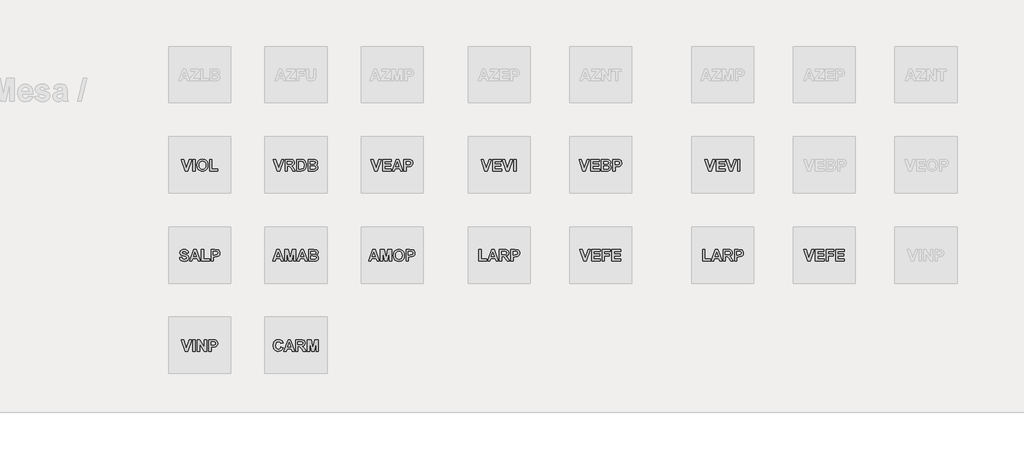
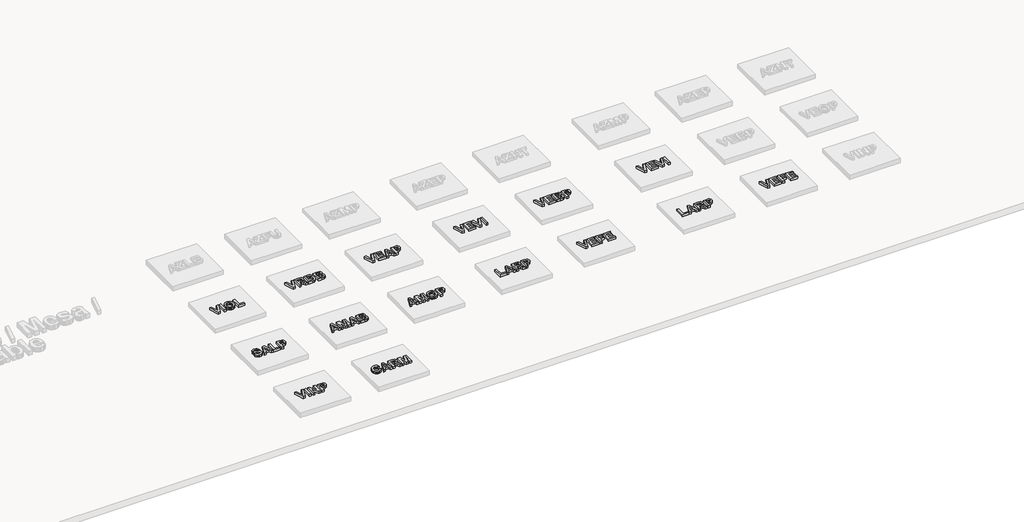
# One storey, part 2 of 11: 15 proxies.
"""IFC4 building model written with IfcOpenShell, lengths in millimetres."""

from ifc_helpers import new_model, si_unit, frame, origin, place, context, project, spatial, polyline, outline, extrude, element, save

model = new_model("IFC4")

# Units and contexts
model_context = context("Model", 3, world=origin())
ifc_project = project(units=[si_unit("LENGTHUNIT", "METRE", prefix="MILLI")], contexts=[model_context])

# Site, building, storey
site = spatial("IfcSite", under=ifc_project)
building = spatial("IfcBuilding", under=site)
storey = spatial("IfcBuildingStorey", under=building, Name="Biblioteca BIM Revit Metadil - Refeitório", Elevation=0.0)

# Proxies
placement = place(None, origin())
element("IfcBuildingElementProxy", 1, Name="Arial 200mm", ObjectType="Arial 200mm", at=placement, inside=storey, context=model_context, shape_type="SweptSolid", body=[
    extrude(outline(polyline([(808.0346861, -1251.3466779), (739.2582712, -1047.2947979), (780.2508364, -1047.2947979), (831.567455, -1199.5239782), (883.0358979, -1047.2947979), (923.8766388, -1047.2947979), (851.4564403, -1251.3466779), (808.0346861, -1251.3466779)])), frame((0.0, 0.0, 100.0), z_axis=(0.0, 0.0, 1.0), x_axis=(1.0, 0.0, 0.0)), (0.0, 0.0, 1.0), 50.0),
    extrude(outline(polyline([(946.5490699, -1251.3466779), (946.5490699, -1047.2947979), (1098.7782502, -1047.2947979), (1098.7782502, -1082.922904), (985.4160947, -1082.922904), (985.4160947, -1128.2677662), (1092.3004127, -1128.2677662), (1092.3004127, -1163.8958722), (985.4160947, -1163.8958722), (985.4160947, -1215.7185719), (1102.0171689, -1215.7185719), (1102.0171689, -1251.3466779), (946.5490699, -1251.3466779)])), frame((0.0, 0.0, 100.0), z_axis=(0.0, 0.0, 1.0), x_axis=(1.0, 0.0, 0.0)), (0.0, 0.0, 1.0), 50.0),
    extrude(outline(polyline([(1134.4063562, -1047.2947979), (1218.1627703, -1047.2947979), (1255.2332073, -1049.3191221), (1277.0959087, -1057.7959797), (1293.1639821, -1074.9521274), (1297.9844041, -1086.307321), (1299.5912115, -1098.9656733), (1297.6744295, -1112.7563819), (1291.9240835, -1125.3831042), (1282.8842108, -1135.9222421), (1271.0988483, -1143.4501977), (1286.0029352, -1150.7630689), (1297.0101981, -1161.871548), (1303.8043362, -1176.0291654), (1306.0690489, -1192.4894516), (1304.4432636, -1206.159966), (1299.5659074, -1219.4382676), (1291.8734754, -1231.2046521), (1281.8024625, -1240.339415), (1269.2326744, -1246.6591022), (1254.0439168, -1249.9802591), (1204.1443251, -1251.3466779), (1134.4063562, -1251.3466779), (1134.4063562, -1047.2947979)]), holes=[polyline([(1173.273381, -1082.922904), (1173.273381, -1128.2677662), (1202.9297306, -1128.2677662), (1235.824999, -1127.6098608), (1254.0692209, -1120.5753342), (1259.0604453, -1113.8318042), (1260.7241867, -1105.2410783), (1259.2881817, -1097.0235873), (1254.9801668, -1090.4888157), (1237.9505394, -1083.5808093), (1199.2859471, -1082.922904), (1173.273381, -1082.922904)]), polyline([(1173.273381, -1163.8958722), (1173.273381, -1215.7185719), (1214.3671624, -1215.7185719), (1244.8332417, -1214.5039774), (1260.9772272, -1206.7862413), (1265.6458249, -1199.5935644), (1267.2020242, -1190.3133031), (1262.3942542, -1175.5357364), (1248.5276334, -1166.679318), (1209.1545276, -1163.8958722), (1173.273381, -1163.8958722)])]), frame((0.0, 0.0, 100.0), z_axis=(0.0, 0.0, 1.0), x_axis=(1.0, 0.0, 0.0)), (0.0, 0.0, 1.0), 50.0),
    extrude(outline(polyline([(1338.4582362, -1251.3466779), (1338.4582362, -1047.2947979), (1404.1981648, -1047.2947979), (1452.9337701, -1050.3312842), (1468.9702134, -1057.5745693), (1482.1599508, -1070.1949655), (1490.9847392, -1087.7243479), (1493.9263353, -1109.6945916), (1492.1993337, -1126.8823693), (1487.0183289, -1141.0969208), (1479.1740726, -1152.4584404), (1469.4573164, -1161.0871224), (1447.8223515, -1170.7279664), (1404.5524216, -1173.6126284), (1377.325261, -1173.6126284), (1377.325261, -1251.3466779), (1338.4582362, -1251.3466779)]), holes=[polyline([(1377.325261, -1082.922904), (1377.325261, -1137.9845224), (1401.4653272, -1137.9845224), (1436.3090076, -1134.9480361), (1450.0744122, -1125.4084082), (1455.0593105, -1110.3018888), (1453.3070049, -1100.6483928), (1448.0500879, -1092.8420926), (1430.3625552, -1084.2387147), (1398.6312733, -1082.922904), (1377.325261, -1082.922904)])]), frame((0.0, 0.0, 100.0), z_axis=(0.0, 0.0, 1.0), x_axis=(1.0, 0.0, 0.0)), (0.0, 0.0, 1.0), 50.0),
])
element("IfcBuildingElementProxy", 2, Name="Arial 200mm", ObjectType="Arial 200mm", at=placement, inside=storey, context=model_context, shape_type="SweptSolid", body=[
    extrude(outline(polyline([(-928.8063987, -1251.3466779), (-997.5828136, -1047.2947979), (-956.5902484, -1047.2947979), (-905.2736298, -1199.5239782), (-853.8051868, -1047.2947979), (-812.964446, -1047.2947979), (-885.3846445, -1251.3466779), (-928.8063987, -1251.3466779)])), frame((0.0, 0.0, 100.0), z_axis=(0.0, 0.0, 1.0), x_axis=(1.0, 0.0, 0.0)), (0.0, 0.0, 1.0), 50.0),
    extrude(outline(polyline([(-790.2920149, -1251.3466779), (-790.2920149, -1047.2947979), (-638.0628346, -1047.2947979), (-638.0628346, -1082.922904), (-751.4249901, -1082.922904), (-751.4249901, -1128.2677662), (-644.540672, -1128.2677662), (-644.540672, -1163.8958722), (-751.4249901, -1163.8958722), (-751.4249901, -1215.7185719), (-634.8239158, -1215.7185719), (-634.8239158, -1251.3466779), (-790.2920149, -1251.3466779)])), frame((0.0, 0.0, 100.0), z_axis=(0.0, 0.0, 1.0), x_axis=(1.0, 0.0, 0.0)), (0.0, 0.0, 1.0), 50.0),
    extrude(outline(polyline([(-553.091826, -1251.3466779), (-621.8682409, -1047.2947979), (-580.8756757, -1047.2947979), (-529.5590571, -1199.5239782), (-478.0906142, -1047.2947979), (-437.2498733, -1047.2947979), (-509.6700718, -1251.3466779), (-553.091826, -1251.3466779)])), frame((0.0, 0.0, 100.0), z_axis=(0.0, 0.0, 1.0), x_axis=(1.0, 0.0, 0.0)), (0.0, 0.0, 1.0), 50.0),
    extrude(outline(polyline([(-414.5774422, -1251.3466779), (-414.5774422, -1047.2947979), (-375.7104174, -1047.2947979), (-375.7104174, -1251.3466779), (-414.5774422, -1251.3466779)])), frame((0.0, 0.0, 100.0), z_axis=(0.0, 0.0, 1.0), x_axis=(1.0, 0.0, 0.0)), (0.0, 0.0, 1.0), 50.0),
])
element("IfcBuildingElementProxy", 3, Name="Arial 200mm", ObjectType="Arial 200mm", at=placement, inside=storey, context=model_context, shape_type="SweptSolid", body=[
    extrude(outline(polyline([(-4497.176333, -2851.3466779), (-4538.0170738, -2851.3466779), (-4554.009235, -2806.0018157), (-4631.0853792, -2806.0018157), (-4646.875108, -2851.3466779), (-4688.272538, -2851.3466779), (-4613.7774072, -2647.2947979), (-4572.3799772, -2647.2947979), (-4497.176333, -2851.3466779)]), holes=[polyline([(-4566.4588289, -2770.3737097), (-4592.7244355, -2695.8785789), (-4618.6357853, -2770.3737097), (-4566.4588289, -2770.3737097)])]), frame((0.0, 0.0, 100.0), z_axis=(0.0, 0.0, 1.0), x_axis=(1.0, 0.0, 0.0)), (0.0, 0.0, 1.0), 50.0),
    extrude(outline(polyline([(-4477.7428206, -2851.3466779), (-4477.7428206, -2647.2947979), (-4411.1425542, -2647.2947979), (-4378.9557993, -2786.4670871), (-4346.7690444, -2647.2947979), (-4280.168778, -2647.2947979), (-4280.168778, -2851.3466779), (-4319.0358028, -2851.3466779), (-4320.6552622, -2690.7165522), (-4356.182152, -2851.3466779), (-4401.6788385, -2851.3466779), (-4437.2563365, -2690.7165522), (-4438.8757958, -2851.3466779), (-4477.7428206, -2851.3466779)])), frame((0.0, 0.0, 100.0), z_axis=(0.0, 0.0, 1.0), x_axis=(1.0, 0.0, 0.0)), (0.0, 0.0, 1.0), 50.0),
    extrude(outline(polyline([(-4069.6390606, -2851.3466779), (-4110.4798015, -2851.3466779), (-4126.4719627, -2806.0018157), (-4203.5481068, -2806.0018157), (-4219.3378356, -2851.3466779), (-4260.7352657, -2851.3466779), (-4186.2401349, -2647.2947979), (-4144.8427049, -2647.2947979), (-4069.6390606, -2851.3466779)]), holes=[polyline([(-4138.9215566, -2770.3737097), (-4165.1871631, -2695.8785789), (-4191.098513, -2770.3737097), (-4138.9215566, -2770.3737097)])]), frame((0.0, 0.0, 100.0), z_axis=(0.0, 0.0, 1.0), x_axis=(1.0, 0.0, 0.0)), (0.0, 0.0, 1.0), 50.0),
    extrude(outline(polyline([(-4050.2055482, -2647.2947979), (-3966.4491342, -2647.2947979), (-3929.3786972, -2649.3191221), (-3907.5159957, -2657.7959797), (-3891.4479223, -2674.9521274), (-3886.6275003, -2686.307321), (-3885.020693, -2698.9656733), (-3886.937475, -2712.7563819), (-3892.6878209, -2725.3831042), (-3901.7276937, -2735.9222421), (-3913.5130562, -2743.4501977), (-3898.6089692, -2750.7630689), (-3887.6017063, -2761.871548), (-3880.8075682, -2776.0291654), (-3878.5428555, -2792.4894516), (-3880.1686409, -2806.159966), (-3885.045997, -2819.4382676), (-3892.738429, -2831.2046521), (-3902.8094419, -2840.339415), (-3915.3792301, -2846.6591022), (-3930.5679876, -2849.9802591), (-3980.4675793, -2851.3466779), (-4050.2055482, -2851.3466779), (-4050.2055482, -2647.2947979)]), holes=[polyline([(-4011.3385235, -2763.8958722), (-4011.3385235, -2815.7185719), (-3970.2447421, -2815.7185719), (-3939.7786628, -2814.5039774), (-3923.6346772, -2806.7862413), (-3918.9660795, -2799.5935644), (-3917.4098803, -2790.3133031), (-3922.2176503, -2775.5357364), (-3936.0842711, -2766.679318), (-3975.4573769, -2763.8958722), (-4011.3385235, -2763.8958722)]), polyline([(-4011.3385235, -2682.922904), (-4011.3385235, -2728.2677662), (-3981.6821738, -2728.2677662), (-3948.7869055, -2727.6098608), (-3930.5426836, -2720.5753342), (-3925.5514592, -2713.8318042), (-3923.8877177, -2705.2410783), (-3925.3237227, -2697.0235873), (-3929.6317377, -2690.4888157), (-3946.6613651, -2683.5808093), (-3985.3259574, -2682.922904), (-4011.3385235, -2682.922904)])]), frame((0.0, 0.0, 100.0), z_axis=(0.0, 0.0, 1.0), x_axis=(1.0, 0.0, 0.0)), (0.0, 0.0, 1.0), 50.0),
])
element("IfcBuildingElementProxy", 4, Name="Arial 200mm", ObjectType="Arial 200mm", at=placement, inside=storey, context=model_context, shape_type="SweptSolid", body=[
    extrude(outline(polyline([(824.2292797, -2851.3466779), (755.4528648, -2647.2947979), (796.44543, -2647.2947979), (847.7620486, -2799.5239782), (899.2304916, -2647.2947979), (940.0712324, -2647.2947979), (867.651034, -2851.3466779), (824.2292797, -2851.3466779)])), frame((0.0, 0.0, 100.0), z_axis=(0.0, 0.0, 1.0), x_axis=(1.0, 0.0, 0.0)), (0.0, 0.0, 1.0), 50.0),
    extrude(outline(polyline([(962.7436635, -2851.3466779), (962.7436635, -2647.2947979), (1114.9728439, -2647.2947979), (1114.9728439, -2682.922904), (1001.6106883, -2682.922904), (1001.6106883, -2728.2677662), (1108.4950064, -2728.2677662), (1108.4950064, -2763.8958722), (1001.6106883, -2763.8958722), (1001.6106883, -2815.7185719), (1118.2117626, -2815.7185719), (1118.2117626, -2851.3466779), (962.7436635, -2851.3466779)])), frame((0.0, 0.0, 100.0), z_axis=(0.0, 0.0, 1.0), x_axis=(1.0, 0.0, 0.0)), (0.0, 0.0, 1.0), 50.0),
    extrude(outline(polyline([(1150.6009499, -2851.3466779), (1150.6009499, -2647.2947979), (1289.8744553, -2647.2947979), (1289.8744553, -2682.922904), (1189.4679746, -2682.922904), (1189.4679746, -2728.2677662), (1276.9187804, -2728.2677662), (1276.9187804, -2763.8958722), (1189.4679746, -2763.8958722), (1189.4679746, -2851.3466779), (1150.6009499, -2851.3466779)])), frame((0.0, 0.0, 100.0), z_axis=(0.0, 0.0, 1.0), x_axis=(1.0, 0.0, 0.0)), (0.0, 0.0, 1.0), 50.0),
    extrude(outline(polyline([(1322.2636426, -2851.3466779), (1322.2636426, -2647.2947979), (1474.4928229, -2647.2947979), (1474.4928229, -2682.922904), (1361.1306673, -2682.922904), (1361.1306673, -2728.2677662), (1468.0149854, -2728.2677662), (1468.0149854, -2763.8958722), (1361.1306673, -2763.8958722), (1361.1306673, -2815.7185719), (1477.7317416, -2815.7185719), (1477.7317416, -2851.3466779), (1322.2636426, -2851.3466779)])), frame((0.0, 0.0, 100.0), z_axis=(0.0, 0.0, 1.0), x_axis=(1.0, 0.0, 0.0)), (0.0, 0.0, 1.0), 50.0),
])
element("IfcBuildingElementProxy", 5, Name="Arial 200mm", ObjectType="Arial 200mm", at=placement, inside=storey, context=model_context, shape_type="SweptSolid", body=[
    extrude(outline(polyline([(-1034.830379, -2851.3466779), (-1034.830379, -2647.2947979), (-995.9633542, -2647.2947979), (-995.9633542, -2815.7185719), (-892.3179549, -2815.7185719), (-892.3179549, -2851.3466779), (-1034.830379, -2851.3466779)])), frame((0.0, 0.0, 100.0), z_axis=(0.0, 0.0, 1.0), x_axis=(1.0, 0.0, 0.0)), (0.0, 0.0, 1.0), 50.0),
    extrude(outline(polyline([(-691.5049936, -2851.3466779), (-732.3457345, -2851.3466779), (-748.3378957, -2806.0018157), (-825.4140398, -2806.0018157), (-841.2037687, -2851.3466779), (-882.6011987, -2851.3466779), (-808.1060679, -2647.2947979), (-766.7086379, -2647.2947979), (-691.5049936, -2851.3466779)]), holes=[polyline([(-760.7874896, -2770.3737097), (-787.0530961, -2695.8785789), (-812.964446, -2770.3737097), (-760.7874896, -2770.3737097)])]), frame((0.0, 0.0, 100.0), z_axis=(0.0, 0.0, 1.0), x_axis=(1.0, 0.0, 0.0)), (0.0, 0.0, 1.0), 50.0),
    extrude(outline(polyline([(-672.0714812, -2851.3466779), (-672.0714812, -2647.2947979), (-586.2401349, -2647.2947979), (-558.2791568, -2648.6738688), (-539.1745971, -2652.8110814), (-525.9658816, -2660.4782093), (-515.6924363, -2672.4470262), (-509.0880786, -2687.5915017), (-506.886626, -2704.7856054), (-510.0686106, -2725.8512292), (-519.6145644, -2742.8935086), (-535.4991834, -2755.14067), (-557.6971636, -2761.8209399), (-537.3020972, -2778.8252632), (-515.6418282, -2811.7711397), (-490.6920323, -2851.3466779), (-536.0875027, -2851.3466779), (-565.6426361, -2804.7366131), (-588.8464523, -2777.0792836), (-602.1057758, -2769.2603314), (-624.29743, -2767.1347909), (-633.2044565, -2767.1347909), (-633.2044565, -2851.3466779), (-672.0714812, -2851.3466779)]), holes=[polyline([(-633.2044565, -2731.5066849), (-601.1695259, -2731.5066849), (-562.2771971, -2729.153408), (-550.1312518, -2721.0561112), (-545.7536507, -2706.7087134), (-547.1959817, -2697.9724892), (-551.5229747, -2691.0961129), (-567.8187846, -2683.5808093), (-599.3982422, -2682.922904), (-633.2044565, -2682.922904), (-633.2044565, -2731.5066849)])]), frame((0.0, 0.0, 100.0), z_axis=(0.0, 0.0, 1.0), x_axis=(1.0, 0.0, 0.0)), (0.0, 0.0, 1.0), 50.0),
    extrude(outline(polyline([(-468.0196012, -2851.3466779), (-468.0196012, -2647.2947979), (-402.2796726, -2647.2947979), (-353.5440674, -2650.3312842), (-337.507624, -2657.5745693), (-324.3178866, -2670.1949655), (-315.4930983, -2687.7243479), (-312.5515022, -2709.6945916), (-314.2785038, -2726.8823693), (-319.4595085, -2741.0969208), (-327.3037648, -2752.4584404), (-337.020521, -2761.0871224), (-358.655486, -2770.7279664), (-401.9254159, -2773.6126284), (-429.1525765, -2773.6126284), (-429.1525765, -2851.3466779), (-468.0196012, -2851.3466779)]), holes=[polyline([(-429.1525765, -2682.922904), (-429.1525765, -2737.9845224), (-405.0125103, -2737.9845224), (-370.1688299, -2734.9480361), (-356.4034253, -2725.4084082), (-351.4185269, -2710.3018888), (-353.1708326, -2700.6483928), (-358.4277495, -2692.8420926), (-376.1152823, -2684.2387147), (-407.8465642, -2682.922904), (-429.1525765, -2682.922904)])]), frame((0.0, 0.0, 100.0), z_axis=(0.0, 0.0, 1.0), x_axis=(1.0, 0.0, 0.0)), (0.0, 0.0, 1.0), 50.0),
])
element("IfcBuildingElementProxy", 6, Name="Arial 200mm", ObjectType="Arial 200mm", at=placement, inside=storey, context=model_context, shape_type="SweptSolid", body=[
    extrude(outline(polyline([(-2799.7582611, -2851.3466779), (-2840.599002, -2851.3466779), (-2856.5911632, -2806.0018157), (-2933.6673073, -2806.0018157), (-2949.4570362, -2851.3466779), (-2990.8544662, -2851.3466779), (-2916.3593354, -2647.2947979), (-2874.9619054, -2647.2947979), (-2799.7582611, -2851.3466779)]), holes=[polyline([(-2869.0407571, -2770.3737097), (-2895.3063636, -2695.8785789), (-2921.2177135, -2770.3737097), (-2869.0407571, -2770.3737097)])]), frame((0.0, 0.0, 100.0), z_axis=(0.0, 0.0, 1.0), x_axis=(1.0, 0.0, 0.0)), (0.0, 0.0, 1.0), 50.0),
    extrude(outline(polyline([(-2780.3247487, -2851.3466779), (-2780.3247487, -2647.2947979), (-2713.7244823, -2647.2947979), (-2681.5377275, -2786.4670871), (-2649.3509726, -2647.2947979), (-2582.7507062, -2647.2947979), (-2582.7507062, -2851.3466779), (-2621.617731, -2851.3466779), (-2623.2371903, -2690.7165522), (-2658.7640801, -2851.3466779), (-2704.2607667, -2851.3466779), (-2739.8382646, -2690.7165522), (-2741.457724, -2851.3466779), (-2780.3247487, -2851.3466779)])), frame((0.0, 0.0, 100.0), z_axis=(0.0, 0.0, 1.0), x_axis=(1.0, 0.0, 0.0)), (0.0, 0.0, 1.0), 50.0),
    extrude(outline(polyline([(-2550.3615189, -2750.5859406), (-2548.0715021, -2721.9670571), (-2541.2014519, -2698.358376), (-2522.5523651, -2670.448006), (-2510.1723574, -2659.6748057), (-2496.6663193, -2652.1025679), (-2476.4989894, -2646.0675514), (-2453.4469975, -2644.0558792), (-2432.4130038, -2645.8002773), (-2413.5931147, -2651.0334717), (-2396.9873302, -2659.7554623), (-2382.5956503, -2671.9662492), (-2370.9716011, -2687.2831085), (-2362.6687089, -2705.3233165), (-2357.6869735, -2726.0868731), (-2356.0263951, -2749.5737784), (-2357.6743215, -2772.9009519), (-2362.6181008, -2793.5395698), (-2370.8577329, -2811.4896321), (-2382.3932179, -2826.7511388), (-2396.6900076, -2838.9287141), (-2413.2135539, -2847.6269822), (-2431.9638569, -2852.845943), (-2452.9409165, -2854.5855966), (-2474.1393865, -2852.8538505), (-2493.0478398, -2847.6586123), (-2509.6662763, -2838.9998818), (-2523.9946961, -2826.8776591), (-2535.5301811, -2811.7189501), (-2543.7698132, -2793.9507607), (-2548.7135925, -2773.5730908), (-2550.3615189, -2750.5859406)]), holes=[polyline([(-2511.4944941, -2749.1689136), (-2507.3636075, -2779.3693004), (-2494.9709478, -2801.2446538), (-2476.2143188, -2814.5292814), (-2452.9915246, -2818.9574906), (-2429.8193384, -2814.5609115), (-2411.2145338, -2801.3711741), (-2398.9736983, -2779.3882784), (-2394.8934199, -2748.6122245), (-2398.8661561, -2718.2979695), (-2410.7843649, -2696.7895248), (-2429.2816273, -2683.9603701), (-2452.9915246, -2679.6839852), (-2476.7520299, -2684.0109782), (-2495.4011167, -2696.9919572), (-2507.4711498, -2718.6901823), (-2511.4944941, -2749.1689136)])]), frame((0.0, 0.0, 100.0), z_axis=(0.0, 0.0, 1.0), x_axis=(1.0, 0.0, 0.0)), (0.0, 0.0, 1.0), 50.0),
    extrude(outline(polyline([(-2323.6372078, -2851.3466779), (-2323.6372078, -2647.2947979), (-2257.8972792, -2647.2947979), (-2209.1616739, -2650.3312842), (-2193.1252306, -2657.5745693), (-2179.9354932, -2670.1949655), (-2171.1107049, -2687.7243479), (-2168.1691087, -2709.6945916), (-2169.8961103, -2726.8823693), (-2175.0771151, -2741.0969208), (-2182.9213714, -2752.4584404), (-2192.6381276, -2761.0871224), (-2214.2730925, -2770.7279664), (-2257.5430225, -2773.6126284), (-2284.770183, -2773.6126284), (-2284.770183, -2851.3466779), (-2323.6372078, -2851.3466779)]), holes=[polyline([(-2284.770183, -2682.922904), (-2284.770183, -2737.9845224), (-2260.6301169, -2737.9845224), (-2225.7864365, -2734.9480361), (-2212.0210319, -2725.4084082), (-2207.0361335, -2710.3018888), (-2208.7884391, -2700.6483928), (-2214.0453561, -2692.8420926), (-2231.7328888, -2684.2387147), (-2263.4641708, -2682.922904), (-2284.770183, -2682.922904)])]), frame((0.0, 0.0, 100.0), z_axis=(0.0, 0.0, 1.0), x_axis=(1.0, 0.0, 0.0)), (0.0, 0.0, 1.0), 50.0),
])
element("IfcBuildingElementProxy", 7, Name="Arial 200mm", ObjectType="Arial 200mm", at=placement, inside=storey, context=model_context, shape_type="SweptSolid", body=[
    extrude(outline(polyline([(-6240.7996048, -1251.3466779), (-6309.5760197, -1047.2947979), (-6268.5834546, -1047.2947979), (-6217.2668359, -1199.5239782), (-6165.798393, -1047.2947979), (-6124.9576521, -1047.2947979), (-6197.3778506, -1251.3466779), (-6240.7996048, -1251.3466779)])), frame((0.0, 0.0, 100.0), z_axis=(0.0, 0.0, 1.0), x_axis=(1.0, 0.0, 0.0)), (0.0, 0.0, 1.0), 50.0),
    extrude(outline(polyline([(-6102.285221, -1251.3466779), (-6102.285221, -1047.2947979), (-6063.4181962, -1047.2947979), (-6063.4181962, -1251.3466779), (-6102.285221, -1251.3466779)])), frame((0.0, 0.0, 100.0), z_axis=(0.0, 0.0, 1.0), x_axis=(1.0, 0.0, 0.0)), (0.0, 0.0, 1.0), 50.0),
    extrude(outline(polyline([(-6031.0290089, -1150.5859406), (-6028.7389922, -1121.9670571), (-6021.8689419, -1098.358376), (-6003.2198552, -1070.448006), (-5990.8398474, -1059.6748057), (-5977.3338094, -1052.1025679), (-5957.1664795, -1046.0675514), (-5934.1144876, -1044.0558792), (-5913.0804939, -1045.8002773), (-5894.2606048, -1051.0334717), (-5877.6548203, -1059.7554623), (-5863.2631404, -1071.9662492), (-5851.6390912, -1087.2831085), (-5843.3361989, -1105.3233165), (-5838.3544636, -1126.0868731), (-5836.6938851, -1149.5737784), (-5838.3418116, -1172.9009519), (-5843.2855908, -1193.5395698), (-5851.525223, -1211.4896321), (-5863.0607079, -1226.7511388), (-5877.3574976, -1238.9287141), (-5893.881044, -1247.6269822), (-5912.6313469, -1252.845943), (-5933.6084065, -1254.5855966), (-5954.8068766, -1252.8538505), (-5973.7153299, -1247.6586123), (-5990.3337664, -1238.9998818), (-6004.6621862, -1226.8776591), (-6016.1976711, -1211.7189501), (-6024.4373032, -1193.9507607), (-6029.3810825, -1173.5730908), (-6031.0290089, -1150.5859406)]), holes=[polyline([(-5992.1619842, -1149.1689136), (-5988.0310976, -1179.3693004), (-5975.6384379, -1201.2446538), (-5956.8818089, -1214.5292814), (-5933.6590146, -1218.9574906), (-5910.4868285, -1214.5609115), (-5891.8820238, -1201.3711741), (-5879.6411884, -1179.3882784), (-5875.5609099, -1148.6122245), (-5879.5336462, -1118.2979695), (-5891.4518549, -1096.7895248), (-5909.9491174, -1083.9603701), (-5933.6590146, -1079.6839852), (-5957.41952, -1084.0109782), (-5976.0686067, -1096.9919572), (-5988.1386398, -1118.6901823), (-5992.1619842, -1149.1689136)])]), frame((0.0, 0.0, 100.0), z_axis=(0.0, 0.0, 1.0), x_axis=(1.0, 0.0, 0.0)), (0.0, 0.0, 1.0), 50.0),
    extrude(outline(polyline([(-5804.3046978, -1251.3466779), (-5804.3046978, -1047.2947979), (-5765.4376731, -1047.2947979), (-5765.4376731, -1215.7185719), (-5661.7922737, -1215.7185719), (-5661.7922737, -1251.3466779), (-5804.3046978, -1251.3466779)])), frame((0.0, 0.0, 100.0), z_axis=(0.0, 0.0, 1.0), x_axis=(1.0, 0.0, 0.0)), (0.0, 0.0, 1.0), 50.0),
])
element("IfcBuildingElementProxy", 8, Name="Arial 200mm", ObjectType="Arial 200mm", at=placement, inside=storey, context=model_context, shape_type="SweptSolid", body=[
    extrude(outline(polyline([(-6340.3457477, -2783.3293846), (-6301.4787229, -2780.0904659), (-6295.8106151, -2797.47435), (-6286.2962914, -2809.5443831), (-6272.8724915, -2816.6042137), (-6255.4759553, -2818.9574906), (-6237.4215138, -2816.8762323), (-6224.4531869, -2810.6324573), (-6216.6342346, -2801.6052366), (-6214.0279172, -2791.1736409), (-6218.3549102, -2779.0023916), (-6233.5120377, -2770.2724935), (-6267.2170357, -2761.6185075), (-6295.9877435, -2752.6735249), (-6314.6874383, -2741.7295221), (-6329.0727922, -2723.0930874), (-6333.8679102, -2700.7875651), (-6331.6664576, -2685.7569578), (-6325.0620999, -2671.7385127), (-6314.3078776, -2659.832956), (-6299.6568311, -2651.1410139), (-6281.3493491, -2645.8271629), (-6259.6258199, -2644.0558792), (-6226.0536682, -2648.4714364), (-6201.9578841, -2661.7181079), (-6187.1992954, -2682.3282587), (-6181.6387299, -2708.8342538), (-6220.5057547, -2708.8342538), (-6224.8011176, -2695.48004), (-6232.221531, -2686.4907754), (-6243.4502043, -2681.3856828), (-6259.170347, -2679.6839852), (-6275.7191974, -2681.493225), (-6288.2193994, -2686.9209443), (-6293.3055139, -2692.3613156), (-6295.0008854, -2699.3705381), (-6293.4573382, -2705.9875479), (-6288.8266966, -2711.5670915), (-6275.3839187, -2718.1018631), (-6250.7440975, -2724.8517191), (-6206.0318366, -2739.2244209), (-6193.1267698, -2748.1251214), (-6183.3594055, -2759.7966157), (-6177.2105207, -2774.384402), (-6175.1608924, -2792.0339787), (-6177.5837555, -2808.8864777), (-6184.8523446, -2824.6255984), (-6196.5554689, -2837.8596179), (-6212.2819376, -2847.1968133), (-6232.202553, -2852.7384008), (-6256.4881174, -2854.5855966), (-6290.5726762, -2850.0371932), (-6315.6996005, -2836.3919828), (-6332.1851907, -2814.0295264), (-6340.3457477, -2783.3293846)])), frame((0.0, 0.0, 100.0), z_axis=(0.0, 0.0, 1.0), x_axis=(1.0, 0.0, 0.0)), (0.0, 0.0, 1.0), 50.0),
    extrude(outline(polyline([(-5971.1090124, -2851.3466779), (-6011.9497533, -2851.3466779), (-6027.9419145, -2806.0018157), (-6105.0180587, -2806.0018157), (-6120.8077875, -2851.3466779), (-6162.2052175, -2851.3466779), (-6087.7100867, -2647.2947979), (-6046.3126567, -2647.2947979), (-5971.1090124, -2851.3466779)]), holes=[polyline([(-6040.3915084, -2770.3737097), (-6066.657115, -2695.8785789), (-6092.5684648, -2770.3737097), (-6040.3915084, -2770.3737097)])]), frame((0.0, 0.0, 100.0), z_axis=(0.0, 0.0, 1.0), x_axis=(1.0, 0.0, 0.0)), (0.0, 0.0, 1.0), 50.0),
    extrude(outline(polyline([(-5951.6755001, -2851.3466779), (-5951.6755001, -2647.2947979), (-5912.8084753, -2647.2947979), (-5912.8084753, -2815.7185719), (-5809.1630759, -2815.7185719), (-5809.1630759, -2851.3466779), (-5951.6755001, -2851.3466779)])), frame((0.0, 0.0, 100.0), z_axis=(0.0, 0.0, 1.0), x_axis=(1.0, 0.0, 0.0)), (0.0, 0.0, 1.0), 50.0),
    extrude(outline(polyline([(-5780.0128074, -2851.3466779), (-5780.0128074, -2647.2947979), (-5714.2728788, -2647.2947979), (-5665.5372735, -2650.3312842), (-5649.5008302, -2657.5745693), (-5636.3110928, -2670.1949655), (-5627.4863044, -2687.7243479), (-5624.5447083, -2709.6945916), (-5626.2717099, -2726.8823693), (-5631.4527147, -2741.0969208), (-5639.296971, -2752.4584404), (-5649.0137272, -2761.0871224), (-5670.6486921, -2770.7279664), (-5713.918622, -2773.6126284), (-5741.1457826, -2773.6126284), (-5741.1457826, -2851.3466779), (-5780.0128074, -2851.3466779)]), holes=[polyline([(-5741.1457826, -2682.922904), (-5741.1457826, -2737.9845224), (-5717.0057164, -2737.9845224), (-5682.162036, -2734.9480361), (-5668.3966314, -2725.4084082), (-5663.4117331, -2710.3018888), (-5665.1640387, -2700.6483928), (-5670.4209557, -2692.8420926), (-5688.1084884, -2684.2387147), (-5719.8397703, -2682.922904), (-5741.1457826, -2682.922904)])]), frame((0.0, 0.0, 100.0), z_axis=(0.0, 0.0, 1.0), x_axis=(1.0, 0.0, 0.0)), (0.0, 0.0, 1.0), 50.0),
])
element("IfcBuildingElementProxy", 9, Name="Arial 200mm", ObjectType="Arial 200mm", at=placement, inside=storey, context=model_context, shape_type="SweptSolid", body=[
    extrude(outline(polyline([(-2881.5915671, -1251.3466779), (-2950.367982, -1047.2947979), (-2909.3754169, -1047.2947979), (-2858.0587982, -1199.5239782), (-2806.5903553, -1047.2947979), (-2765.7496144, -1047.2947979), (-2838.1698129, -1251.3466779), (-2881.5915671, -1251.3466779)])), frame((0.0, 0.0, 100.0), z_axis=(0.0, 0.0, 1.0), x_axis=(1.0, 0.0, 0.0)), (0.0, 0.0, 1.0), 50.0),
    extrude(outline(polyline([(-2743.0771833, -1251.3466779), (-2743.0771833, -1047.2947979), (-2590.848003, -1047.2947979), (-2590.848003, -1082.922904), (-2704.2101586, -1082.922904), (-2704.2101586, -1128.2677662), (-2597.3258405, -1128.2677662), (-2597.3258405, -1163.8958722), (-2704.2101586, -1163.8958722), (-2704.2101586, -1215.7185719), (-2587.6090843, -1215.7185719), (-2587.6090843, -1251.3466779), (-2743.0771833, -1251.3466779)])), frame((0.0, 0.0, 100.0), z_axis=(0.0, 0.0, 1.0), x_axis=(1.0, 0.0, 0.0)), (0.0, 0.0, 1.0), 50.0),
    extrude(outline(polyline([(-2383.5572043, -1251.3466779), (-2424.3979452, -1251.3466779), (-2440.3901064, -1206.0018157), (-2517.4662505, -1206.0018157), (-2533.2559793, -1251.3466779), (-2574.6534094, -1251.3466779), (-2500.1582786, -1047.2947979), (-2458.7608486, -1047.2947979), (-2383.5572043, -1251.3466779)]), holes=[polyline([(-2452.8397003, -1170.3737097), (-2479.1053068, -1095.8785789), (-2505.0166567, -1170.3737097), (-2452.8397003, -1170.3737097)])]), frame((0.0, 0.0, 100.0), z_axis=(0.0, 0.0, 1.0), x_axis=(1.0, 0.0, 0.0)), (0.0, 0.0, 1.0), 50.0),
    extrude(outline(polyline([(-2364.1236919, -1251.3466779), (-2364.1236919, -1047.2947979), (-2298.3837633, -1047.2947979), (-2249.6481581, -1050.3312842), (-2233.6117147, -1057.5745693), (-2220.4219773, -1070.1949655), (-2211.597189, -1087.7243479), (-2208.6555929, -1109.6945916), (-2210.3825945, -1126.8823693), (-2215.5635992, -1141.0969208), (-2223.4078555, -1152.4584404), (-2233.1246117, -1161.0871224), (-2254.7595767, -1170.7279664), (-2298.0295066, -1173.6126284), (-2325.2566672, -1173.6126284), (-2325.2566672, -1251.3466779), (-2364.1236919, -1251.3466779)]), holes=[polyline([(-2325.2566672, -1082.922904), (-2325.2566672, -1137.9845224), (-2301.116601, -1137.9845224), (-2266.2729206, -1134.9480361), (-2252.507516, -1125.4084082), (-2247.5226176, -1110.3018888), (-2249.2749233, -1100.6483928), (-2254.5318402, -1092.8420926), (-2272.219373, -1084.2387147), (-2303.9506549, -1082.922904), (-2325.2566672, -1082.922904)])]), frame((0.0, 0.0, 100.0), z_axis=(0.0, 0.0, 1.0), x_axis=(1.0, 0.0, 0.0)), (0.0, 0.0, 1.0), 50.0),
])
element("IfcBuildingElementProxy", 10, Name="Arial 200mm", ObjectType="Arial 200mm", at=placement, inside=storey, context=model_context, shape_type="SweptSolid", body=[
    extrude(outline(polyline([(-4608.1599076, -1251.3466779), (-4676.9363225, -1047.2947979), (-4635.9437573, -1047.2947979), (-4584.6271387, -1199.5239782), (-4533.1586957, -1047.2947979), (-4492.3179549, -1047.2947979), (-4564.7381533, -1251.3466779), (-4608.1599076, -1251.3466779)])), frame((0.0, 0.0, 100.0), z_axis=(0.0, 0.0, 1.0), x_axis=(1.0, 0.0, 0.0)), (0.0, 0.0, 1.0), 50.0),
    extrude(outline(polyline([(-4469.6455238, -1251.3466779), (-4469.6455238, -1047.2947979), (-4383.8141774, -1047.2947979), (-4355.8531993, -1048.6738688), (-4336.7486396, -1052.8110814), (-4323.5399242, -1060.4782093), (-4313.2664788, -1072.4470262), (-4306.6621211, -1087.5915017), (-4304.4606685, -1104.7856054), (-4307.6426531, -1125.8512292), (-4317.188607, -1142.8935086), (-4333.073226, -1155.14067), (-4355.2712061, -1161.8209399), (-4334.8761397, -1178.8252632), (-4313.2158707, -1211.7711397), (-4288.2660749, -1251.3466779), (-4333.6615452, -1251.3466779), (-4363.2166786, -1204.7366131), (-4386.4204948, -1177.0792836), (-4399.6798184, -1169.2603314), (-4421.8714725, -1167.1347909), (-4430.778499, -1167.1347909), (-4430.778499, -1251.3466779), (-4469.6455238, -1251.3466779)]), holes=[polyline([(-4430.778499, -1131.5066849), (-4398.7435684, -1131.5066849), (-4359.8512396, -1129.153408), (-4347.7052944, -1121.0561112), (-4343.3276933, -1106.7087134), (-4344.7700243, -1097.9724892), (-4349.0970173, -1091.0961129), (-4365.3928271, -1083.5808093), (-4396.9722847, -1082.922904), (-4430.778499, -1082.922904), (-4430.778499, -1131.5066849)])]), frame((0.0, 0.0, 100.0), z_axis=(0.0, 0.0, 1.0), x_axis=(1.0, 0.0, 0.0)), (0.0, 0.0, 1.0), 50.0),
    extrude(outline(polyline([(-4265.5936438, -1047.2947979), (-4190.0357428, -1047.2947979), (-4151.0675018, -1051.191622), (-4134.341523, -1058.5487753), (-4120.1965576, -1069.9925331), (-4108.8793201, -1084.9978363), (-4100.636525, -1103.0396258), (-4095.6073446, -1124.8833491), (-4093.9309511, -1151.294454), (-4095.4998023, -1174.7260067), (-4100.2063561, -1194.7162082), (-4109.5435515, -1214.8582341), (-4122.1702737, -1230.7491791), (-4134.796996, -1240.0357664), (-4151.2193261, -1247.044989), (-4187.8089861, -1251.3466779), (-4265.5936438, -1251.3466779), (-4265.5936438, -1047.2947979)]), holes=[polyline([(-4226.726619, -1082.922904), (-4226.726619, -1215.7185719), (-4193.6289182, -1215.7185719), (-4166.8066225, -1213.7954639), (-4148.9166573, -1205.4704306), (-4137.3020972, -1186.1128304), (-4132.7979758, -1149.371346), (-4137.3020972, -1113.6926319), (-4149.8782113, -1094.2591195), (-4170.399798, -1084.846012), (-4206.7870256, -1082.922904), (-4226.726619, -1082.922904)])]), frame((0.0, 0.0, 100.0), z_axis=(0.0, 0.0, 1.0), x_axis=(1.0, 0.0, 0.0)), (0.0, 0.0, 1.0), 50.0),
    extrude(outline(polyline([(-4061.5417638, -1047.2947979), (-3977.7853497, -1047.2947979), (-3940.7149127, -1049.3191221), (-3918.8522113, -1057.7959797), (-3902.7841379, -1074.9521274), (-3897.9637159, -1086.307321), (-3896.3569085, -1098.9656733), (-3898.2736905, -1112.7563819), (-3904.0240365, -1125.3831042), (-3913.0639093, -1135.9222421), (-3924.8492717, -1143.4501977), (-3909.9451848, -1150.7630689), (-3898.9379219, -1161.871548), (-3892.1437838, -1176.0291654), (-3889.8790711, -1192.4894516), (-3891.5048565, -1206.159966), (-3896.3822126, -1219.4382676), (-3904.0746446, -1231.2046521), (-3914.1456575, -1240.339415), (-3926.7154456, -1246.6591022), (-3941.9042032, -1249.9802591), (-3991.8037949, -1251.3466779), (-4061.5417638, -1251.3466779), (-4061.5417638, -1047.2947979)]), holes=[polyline([(-4022.674739, -1163.8958722), (-4022.674739, -1215.7185719), (-3981.5809576, -1215.7185719), (-3951.1148783, -1214.5039774), (-3934.9708928, -1206.7862413), (-3930.3022951, -1199.5935644), (-3928.7460958, -1190.3133031), (-3933.5538658, -1175.5357364), (-3947.4204866, -1166.679318), (-3986.7935925, -1163.8958722), (-4022.674739, -1163.8958722)]), polyline([(-4022.674739, -1082.922904), (-4022.674739, -1128.2677662), (-3993.0183894, -1128.2677662), (-3960.123121, -1127.6098608), (-3941.8788991, -1120.5753342), (-3936.8876748, -1113.8318042), (-3935.2239333, -1105.2410783), (-3936.6599383, -1097.0235873), (-3940.9679532, -1090.4888157), (-3957.9975806, -1083.5808093), (-3996.662173, -1082.922904), (-4022.674739, -1082.922904)])]), frame((0.0, 0.0, 100.0), z_axis=(0.0, 0.0, 1.0), x_axis=(1.0, 0.0, 0.0)), (0.0, 0.0, 1.0), 50.0),
])
element("IfcBuildingElementProxy", 11, Name="Arial 200mm", ObjectType="Arial 200mm", at=placement, inside=storey, context=model_context, shape_type="SweptSolid", body=[
    extrude(outline(polyline([(-6240.7996048, -4451.3466779), (-6309.5760197, -4247.2947979), (-6268.5834546, -4247.2947979), (-6217.2668359, -4399.5239782), (-6165.798393, -4247.2947979), (-6124.9576521, -4247.2947979), (-6197.3778506, -4451.3466779), (-6240.7996048, -4451.3466779)])), frame((0.0, 0.0, 100.0), z_axis=(0.0, 0.0, 1.0), x_axis=(1.0, 0.0, 0.0)), (0.0, 0.0, 1.0), 50.0),
    extrude(outline(polyline([(-6102.285221, -4451.3466779), (-6102.285221, -4247.2947979), (-6063.4181962, -4247.2947979), (-6063.4181962, -4451.3466779), (-6102.285221, -4451.3466779)])), frame((0.0, 0.0, 100.0), z_axis=(0.0, 0.0, 1.0), x_axis=(1.0, 0.0, 0.0)), (0.0, 0.0, 1.0), 50.0),
    extrude(outline(polyline([(-6024.5511715, -4451.3466779), (-6024.5511715, -4247.2947979), (-5983.8116468, -4247.2947979), (-5898.233341, -4384.6451953), (-5898.233341, -4247.2947979), (-5859.3663163, -4247.2947979), (-5859.3663163, -4451.3466779), (-5901.3710435, -4451.3466779), (-5985.6841467, -4316.0206047), (-5985.6841467, -4451.3466779), (-6024.5511715, -4451.3466779)])), frame((0.0, 0.0, 100.0), z_axis=(0.0, 0.0, 1.0), x_axis=(1.0, 0.0, 0.0)), (0.0, 0.0, 1.0), 50.0),
    extrude(outline(polyline([(-5820.4992915, -4451.3466779), (-5820.4992915, -4247.2947979), (-5754.7593629, -4247.2947979), (-5706.0237576, -4250.3312842), (-5689.9873143, -4257.5745693), (-5676.7975769, -4270.1949655), (-5667.9727886, -4287.7243479), (-5665.0311925, -4309.6945916), (-5666.758194, -4326.8823693), (-5671.9391988, -4341.0969208), (-5679.7834551, -4352.4584404), (-5689.5002113, -4361.0871224), (-5711.1351763, -4370.7279664), (-5754.4051062, -4373.6126284), (-5781.6322667, -4373.6126284), (-5781.6322667, -4451.3466779), (-5820.4992915, -4451.3466779)]), holes=[polyline([(-5781.6322667, -4282.922904), (-5781.6322667, -4337.9845224), (-5757.4922006, -4337.9845224), (-5722.6485202, -4334.9480361), (-5708.8831156, -4325.4084082), (-5703.8982172, -4310.3018888), (-5705.6505229, -4300.6483928), (-5710.9074398, -4292.8420926), (-5728.5949725, -4284.2387147), (-5760.3262545, -4282.922904), (-5781.6322667, -4282.922904)])]), frame((0.0, 0.0, 100.0), z_axis=(0.0, 0.0, 1.0), x_axis=(1.0, 0.0, 0.0)), (0.0, 0.0, 1.0), 50.0),
])
element("IfcBuildingElementProxy", 12, Name="Arial 200mm", ObjectType="Arial 200mm", at=placement, inside=storey, context=model_context, shape_type="SweptSolid", body=[
    extrude(outline(polyline([(-4542.5211952, -4373.6126284), (-4503.6541704, -4386.5683033), (-4515.9139839, -4415.1935128), (-4534.272074, -4435.3798207), (-4558.5639645, -4447.3549636), (-4588.625179, -4451.3466779), (-4608.0871584, -4449.6418174), (-4625.7335721, -4444.5272357), (-4641.56442, -4436.002933), (-4655.5797021, -4424.0689092), (-4667.0487639, -4409.1774743), (-4675.240951, -4391.7809381), (-4680.1562632, -4371.8793008), (-4681.7947006, -4349.4725622), (-4680.1420296, -4325.8449031), (-4675.1840168, -4305.0133419), (-4666.9206622, -4286.9778784), (-4655.3519656, -4271.7385127), (-4641.0883875, -4259.6273606), (-4624.740388, -4250.9765376), (-4606.3079672, -4245.7860438), (-4585.7911251, -4244.0558792), (-4551.6812622, -4249.7619431), (-4537.2832563, -4256.8945229), (-4524.6565341, -4266.8801346), (-4512.3967206, -4283.2898127), (-4503.6541704, -4305.5953351), (-4542.5211952, -4312.0731725), (-4548.4739735, -4298.6303946), (-4558.6398767, -4288.3632753), (-4572.2344789, -4281.8538077), (-4588.4733547, -4279.6839852), (-4610.4309463, -4283.6250914), (-4627.8211564, -4295.44841), (-4639.151046, -4316.0901909), (-4642.9276758, -4346.486684), (-4639.2649142, -4378.5469187), (-4628.2766294, -4399.8276269), (-4611.4178043, -4411.7458356), (-4590.1434221, -4415.7185719), (-4574.0816748, -4413.1818406), (-4560.4111604, -4405.5716468), (-4549.7012201, -4392.5084297), (-4542.5211952, -4373.6126284)])), frame((0.0, 0.0, 100.0), z_axis=(0.0, 0.0, 1.0), x_axis=(1.0, 0.0, 0.0)), (0.0, 0.0, 1.0), 50.0),
    extrude(outline(polyline([(-4299.6022904, -4451.3466779), (-4340.4430313, -4451.3466779), (-4356.4351925, -4406.0018157), (-4433.5113367, -4406.0018157), (-4449.3010655, -4451.3466779), (-4490.6984955, -4451.3466779), (-4416.2033647, -4247.2947979), (-4374.8059347, -4247.2947979), (-4299.6022904, -4451.3466779)]), holes=[polyline([(-4368.8847864, -4370.3737097), (-4395.150393, -4295.8785789), (-4421.0617428, -4370.3737097), (-4368.8847864, -4370.3737097)])]), frame((0.0, 0.0, 100.0), z_axis=(0.0, 0.0, 1.0), x_axis=(1.0, 0.0, 0.0)), (0.0, 0.0, 1.0), 50.0),
    extrude(outline(polyline([(-4280.168778, -4451.3466779), (-4280.168778, -4247.2947979), (-4194.3374317, -4247.2947979), (-4166.3764536, -4248.6738688), (-4147.2718939, -4252.8110814), (-4134.0631785, -4260.4782093), (-4123.7897331, -4272.4470262), (-4117.1853754, -4287.5915017), (-4114.9839228, -4304.7856054), (-4118.1659074, -4325.8512292), (-4127.7118613, -4342.8935086), (-4143.5964803, -4355.14067), (-4165.7944604, -4361.8209399), (-4145.399394, -4378.8252632), (-4123.739125, -4411.7711397), (-4098.7893292, -4451.3466779), (-4144.1847995, -4451.3466779), (-4173.7399329, -4404.7366131), (-4196.9437491, -4377.0792836), (-4210.2030727, -4369.2603314), (-4232.3947268, -4367.1347909), (-4241.3017533, -4367.1347909), (-4241.3017533, -4451.3466779), (-4280.168778, -4451.3466779)]), holes=[polyline([(-4241.3017533, -4331.5066849), (-4209.2668227, -4331.5066849), (-4170.3744939, -4329.153408), (-4158.2285487, -4321.0561112), (-4153.8509476, -4306.7087134), (-4155.2932786, -4297.9724892), (-4159.6202716, -4291.0961129), (-4175.9160814, -4283.5808093), (-4207.495539, -4282.922904), (-4241.3017533, -4282.922904), (-4241.3017533, -4331.5066849)])]), frame((0.0, 0.0, 100.0), z_axis=(0.0, 0.0, 1.0), x_axis=(1.0, 0.0, 0.0)), (0.0, 0.0, 1.0), 50.0),
    extrude(outline(polyline([(-4076.1168981, -4451.3466779), (-4076.1168981, -4247.2947979), (-4009.5166317, -4247.2947979), (-3977.3298768, -4386.4670871), (-3945.1431219, -4247.2947979), (-3878.5428555, -4247.2947979), (-3878.5428555, -4451.3466779), (-3917.4098803, -4451.3466779), (-3919.0293396, -4290.7165522), (-3954.5562295, -4451.3466779), (-4000.052916, -4451.3466779), (-4035.6304139, -4290.7165522), (-4037.2498733, -4451.3466779), (-4076.1168981, -4451.3466779)])), frame((0.0, 0.0, 100.0), z_axis=(0.0, 0.0, 1.0), x_axis=(1.0, 0.0, 0.0)), (0.0, 0.0, 1.0), 50.0),
])
element("IfcBuildingElementProxy", 13, Name="Arial 200mm", ObjectType="Arial 200mm", at=placement, inside=storey, context=model_context, shape_type="SweptSolid", body=[
    extrude(outline(polyline([(4788.3032835, -2851.3466779), (4719.5268686, -2647.2947979), (4760.5194338, -2647.2947979), (4811.8360524, -2799.5239782), (4863.3044954, -2647.2947979), (4904.1452362, -2647.2947979), (4831.7250377, -2851.3466779), (4788.3032835, -2851.3466779)])), frame((0.0, 0.0, 100.0), z_axis=(0.0, 0.0, 1.0), x_axis=(1.0, 0.0, 0.0)), (0.0, 0.0, 1.0), 50.0),
    extrude(outline(polyline([(4926.8176673, -2851.3466779), (4926.8176673, -2647.2947979), (5079.0468476, -2647.2947979), (5079.0468476, -2682.922904), (4965.6846921, -2682.922904), (4965.6846921, -2728.2677662), (5072.5690102, -2728.2677662), (5072.5690102, -2763.8958722), (4965.6846921, -2763.8958722), (4965.6846921, -2815.7185719), (5082.2857664, -2815.7185719), (5082.2857664, -2851.3466779), (4926.8176673, -2851.3466779)])), frame((0.0, 0.0, 100.0), z_axis=(0.0, 0.0, 1.0), x_axis=(1.0, 0.0, 0.0)), (0.0, 0.0, 1.0), 50.0),
    extrude(outline(polyline([(5114.6749537, -2851.3466779), (5114.6749537, -2647.2947979), (5253.9484591, -2647.2947979), (5253.9484591, -2682.922904), (5153.5419784, -2682.922904), (5153.5419784, -2728.2677662), (5240.9927841, -2728.2677662), (5240.9927841, -2763.8958722), (5153.5419784, -2763.8958722), (5153.5419784, -2851.3466779), (5114.6749537, -2851.3466779)])), frame((0.0, 0.0, 100.0), z_axis=(0.0, 0.0, 1.0), x_axis=(1.0, 0.0, 0.0)), (0.0, 0.0, 1.0), 50.0),
    extrude(outline(polyline([(5286.3376464, -2851.3466779), (5286.3376464, -2647.2947979), (5438.5668267, -2647.2947979), (5438.5668267, -2682.922904), (5325.2046711, -2682.922904), (5325.2046711, -2728.2677662), (5432.0889892, -2728.2677662), (5432.0889892, -2763.8958722), (5325.2046711, -2763.8958722), (5325.2046711, -2815.7185719), (5441.8057454, -2815.7185719), (5441.8057454, -2851.3466779), (5286.3376464, -2851.3466779)])), frame((0.0, 0.0, 100.0), z_axis=(0.0, 0.0, 1.0), x_axis=(1.0, 0.0, 0.0)), (0.0, 0.0, 1.0), 50.0),
])
element("IfcBuildingElementProxy", 14, Name="Arial 200mm", ObjectType="Arial 200mm", at=placement, inside=storey, context=model_context, shape_type="SweptSolid", body=[
    extrude(outline(polyline([(2929.2436248, -2851.3466779), (2929.2436248, -2647.2947979), (2968.1106496, -2647.2947979), (2968.1106496, -2815.7185719), (3071.7560489, -2815.7185719), (3071.7560489, -2851.3466779), (2929.2436248, -2851.3466779)])), frame((0.0, 0.0, 100.0), z_axis=(0.0, 0.0, 1.0), x_axis=(1.0, 0.0, 0.0)), (0.0, 0.0, 1.0), 50.0),
    extrude(outline(polyline([(3272.5690102, -2851.3466779), (3231.7282693, -2851.3466779), (3215.7361081, -2806.0018157), (3138.6599639, -2806.0018157), (3122.8702351, -2851.3466779), (3081.4728051, -2851.3466779), (3155.9679359, -2647.2947979), (3197.3653659, -2647.2947979), (3272.5690102, -2851.3466779)]), holes=[polyline([(3203.2865142, -2770.3737097), (3177.0209076, -2695.8785789), (3151.1095578, -2770.3737097), (3203.2865142, -2770.3737097)])]), frame((0.0, 0.0, 100.0), z_axis=(0.0, 0.0, 1.0), x_axis=(1.0, 0.0, 0.0)), (0.0, 0.0, 1.0), 50.0),
    extrude(outline(polyline([(3292.0025226, -2851.3466779), (3292.0025226, -2647.2947979), (3377.8338689, -2647.2947979), (3405.794847, -2648.6738688), (3424.8994067, -2652.8110814), (3438.1081221, -2660.4782093), (3448.3815675, -2672.4470262), (3454.9859252, -2687.5915017), (3457.1873778, -2704.7856054), (3454.0053932, -2725.8512292), (3444.4594393, -2742.8935086), (3428.5748203, -2755.14067), (3406.3768402, -2761.8209399), (3426.7719066, -2778.8252632), (3448.4321756, -2811.7711397), (3473.3819714, -2851.3466779), (3427.9865011, -2851.3466779), (3398.4313677, -2804.7366131), (3375.2275515, -2777.0792836), (3361.9682279, -2769.2603314), (3339.7765738, -2767.1347909), (3330.8695473, -2767.1347909), (3330.8695473, -2851.3466779), (3292.0025226, -2851.3466779)]), holes=[polyline([(3330.8695473, -2731.5066849), (3362.9044779, -2731.5066849), (3401.7968067, -2729.153408), (3413.9427519, -2721.0561112), (3418.320353, -2706.7087134), (3416.878022, -2697.9724892), (3412.551029, -2691.0961129), (3396.2552192, -2683.5808093), (3364.6757616, -2682.922904), (3330.8695473, -2682.922904), (3330.8695473, -2731.5066849)])]), frame((0.0, 0.0, 100.0), z_axis=(0.0, 0.0, 1.0), x_axis=(1.0, 0.0, 0.0)), (0.0, 0.0, 1.0), 50.0),
    extrude(outline(polyline([(3496.0544026, -2851.3466779), (3496.0544026, -2647.2947979), (3561.7943312, -2647.2947979), (3610.5299364, -2650.3312842), (3626.5663797, -2657.5745693), (3639.7561171, -2670.1949655), (3648.5809055, -2687.7243479), (3651.5225016, -2709.6945916), (3649.7955, -2726.8823693), (3644.6144952, -2741.0969208), (3636.7702389, -2752.4584404), (3627.0534828, -2761.0871224), (3605.4185178, -2770.7279664), (3562.1485879, -2773.6126284), (3534.9214273, -2773.6126284), (3534.9214273, -2851.3466779), (3496.0544026, -2851.3466779)]), holes=[polyline([(3534.9214273, -2682.922904), (3534.9214273, -2737.9845224), (3559.0614935, -2737.9845224), (3593.9051739, -2734.9480361), (3607.6705785, -2725.4084082), (3612.6554768, -2710.3018888), (3610.9031712, -2700.6483928), (3605.6462543, -2692.8420926), (3587.9587215, -2684.2387147), (3556.2274396, -2682.922904), (3534.9214273, -2682.922904)])]), frame((0.0, 0.0, 100.0), z_axis=(0.0, 0.0, 1.0), x_axis=(1.0, 0.0, 0.0)), (0.0, 0.0, 1.0), 50.0),
])
element("IfcBuildingElementProxy", 15, Name="Arial 200mm", ObjectType="Arial 200mm", at=placement, inside=storey, context=model_context, shape_type="SweptSolid", body=[
    extrude(outline(polyline([(3035.2676051, -1251.3466779), (2966.4911902, -1047.2947979), (3007.4837554, -1047.2947979), (3058.800374, -1199.5239782), (3110.2688169, -1047.2947979), (3151.1095578, -1047.2947979), (3078.6893593, -1251.3466779), (3035.2676051, -1251.3466779)])), frame((0.0, 0.0, 100.0), z_axis=(0.0, 0.0, 1.0), x_axis=(1.0, 0.0, 0.0)), (0.0, 0.0, 1.0), 50.0),
    extrude(outline(polyline([(3173.7819889, -1251.3466779), (3173.7819889, -1047.2947979), (3326.0111692, -1047.2947979), (3326.0111692, -1082.922904), (3212.6490137, -1082.922904), (3212.6490137, -1128.2677662), (3319.5333318, -1128.2677662), (3319.5333318, -1163.8958722), (3212.6490137, -1163.8958722), (3212.6490137, -1215.7185719), (3329.250088, -1215.7185719), (3329.250088, -1251.3466779), (3173.7819889, -1251.3466779)])), frame((0.0, 0.0, 100.0), z_axis=(0.0, 0.0, 1.0), x_axis=(1.0, 0.0, 0.0)), (0.0, 0.0, 1.0), 50.0),
    extrude(outline(polyline([(3410.9821778, -1251.3466779), (3342.2057629, -1047.2947979), (3383.1983281, -1047.2947979), (3434.5149467, -1199.5239782), (3485.9833896, -1047.2947979), (3526.8241305, -1047.2947979), (3454.403932, -1251.3466779), (3410.9821778, -1251.3466779)])), frame((0.0, 0.0, 100.0), z_axis=(0.0, 0.0, 1.0), x_axis=(1.0, 0.0, 0.0)), (0.0, 0.0, 1.0), 50.0),
    extrude(outline(polyline([(3549.4965616, -1251.3466779), (3549.4965616, -1047.2947979), (3588.3635864, -1047.2947979), (3588.3635864, -1251.3466779), (3549.4965616, -1251.3466779)])), frame((0.0, 0.0, 100.0), z_axis=(0.0, 0.0, 1.0), x_axis=(1.0, 0.0, 0.0)), (0.0, 0.0, 1.0), 50.0),
])

save(model, "model.ifc")
